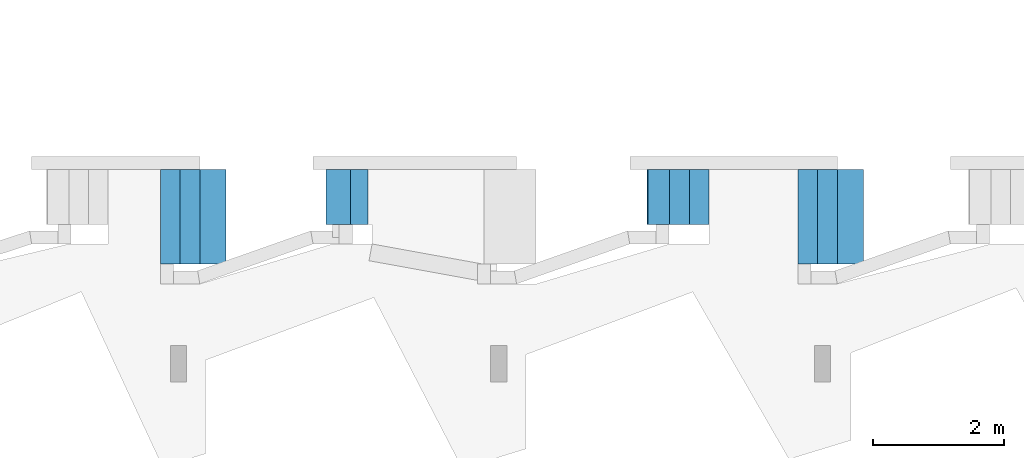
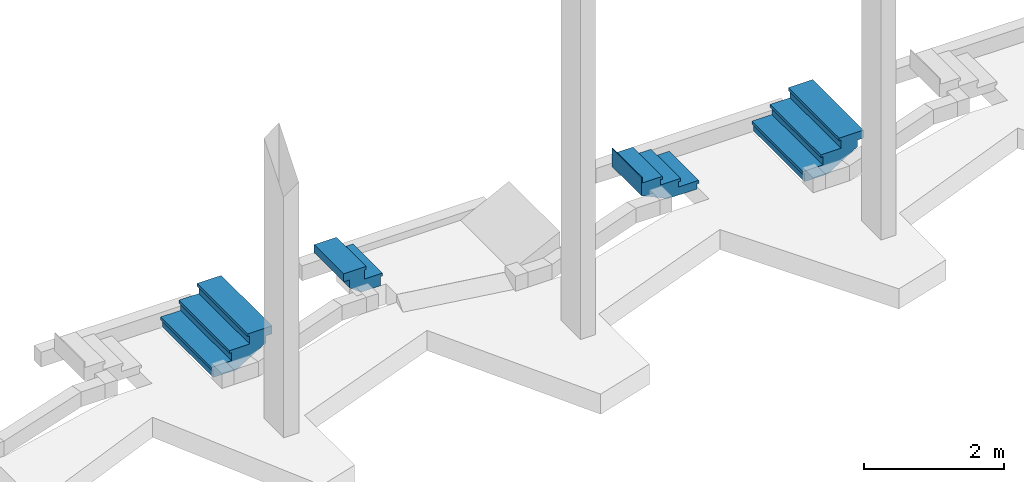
# One storey, part 5 of 8: 4 stair flights, 4 elements without a shape of their own.
"""IFC4 building model written with IfcOpenShell, lengths in metres."""

from ifc_helpers import new_model, entity, si_unit, converted_unit, derived_unit, direction, frame, origin, place, context, subcontext, project, spatial, polygons, material, constituent, constituent_set, type_object, element, aggregate, save


model = new_model("IFC4")

# Units and contexts
model_context = context("Model", 3, precision=1e-05, world=origin(), true_north=direction((6.123031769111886e-17, 1.0)))
body_context = subcontext(model_context, "Body", "Model", "MODEL_VIEW")
ifc_project = project(units=[si_unit("LENGTHUNIT", "METRE"), si_unit("AREAUNIT", "SQUARE_METRE"), si_unit("VOLUMEUNIT", "CUBIC_METRE"), converted_unit("PLANEANGLEUNIT", "DEGREE", entity("IfcRatioMeasure", 0.017453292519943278), si_unit("PLANEANGLEUNIT", "RADIAN"), dimensions=[0, 0, 0, 0, 0, 0, 0]), si_unit("MASSUNIT", "GRAM", prefix="KILO"), derived_unit("MASSDENSITYUNIT", [(si_unit("MASSUNIT", "GRAM", prefix="KILO"), 1), (si_unit("LENGTHUNIT", "METRE"), -3)]), derived_unit("MOMENTOFINERTIAUNIT", [(si_unit("LENGTHUNIT", "METRE"), 4)]), si_unit("TIMEUNIT", "SECOND"), si_unit("FREQUENCYUNIT", "HERTZ"), si_unit("THERMODYNAMICTEMPERATUREUNIT", "DEGREE_CELSIUS"), derived_unit("THERMALTRANSMITTANCEUNIT", [(si_unit("MASSUNIT", "GRAM", prefix="KILO"), 1), (si_unit("THERMODYNAMICTEMPERATUREUNIT", "KELVIN"), -1), (si_unit("TIMEUNIT", "SECOND"), -3)]), derived_unit("VOLUMETRICFLOWRATEUNIT", [(si_unit("LENGTHUNIT", "METRE"), 3), (si_unit("TIMEUNIT", "SECOND"), -1)]), derived_unit("MASSFLOWRATEUNIT", [(si_unit("MASSUNIT", "GRAM", prefix="KILO"), 1), (si_unit("TIMEUNIT", "SECOND"), -1)]), derived_unit("ROTATIONALFREQUENCYUNIT", [(si_unit("TIMEUNIT", "SECOND"), -1)]), si_unit("ELECTRICCURRENTUNIT", "AMPERE"), si_unit("ELECTRICVOLTAGEUNIT", "VOLT"), si_unit("POWERUNIT", "WATT"), si_unit("FORCEUNIT", "NEWTON", prefix="KILO"), si_unit("ILLUMINANCEUNIT", "LUX"), si_unit("LUMINOUSFLUXUNIT", "LUMEN"), si_unit("LUMINOUSINTENSITYUNIT", "CANDELA"), derived_unit("USERDEFINED", [(si_unit("MASSUNIT", "GRAM", prefix="KILO"), -1), (si_unit("LENGTHUNIT", "METRE"), -2), (si_unit("TIMEUNIT", "SECOND"), 3), (si_unit("LUMINOUSFLUXUNIT", "LUMEN"), 1)]), derived_unit("SOUNDPOWERUNIT", [(si_unit("MASSUNIT", "GRAM", prefix="KILO"), 1), (si_unit("LENGTHUNIT", "METRE"), 2), (si_unit("TIMEUNIT", "SECOND"), -3)]), derived_unit("SOUNDPRESSUREUNIT", [(si_unit("MASSUNIT", "GRAM", prefix="KILO"), 1), (si_unit("LENGTHUNIT", "METRE"), -1), (si_unit("TIMEUNIT", "SECOND"), -2)]), derived_unit("LINEARVELOCITYUNIT", [(si_unit("LENGTHUNIT", "METRE"), 1), (si_unit("TIMEUNIT", "SECOND"), -1)]), si_unit("PRESSUREUNIT", "PASCAL"), derived_unit("USERDEFINED", [(si_unit("LENGTHUNIT", "METRE"), -2), (si_unit("MASSUNIT", "GRAM", prefix="KILO"), 1), (si_unit("TIMEUNIT", "SECOND"), -2)]), derived_unit("LINEARFORCEUNIT", [(si_unit("MASSUNIT", "GRAM", prefix="KILO"), 1), (si_unit("LENGTHUNIT", "METRE"), 1), (si_unit("TIMEUNIT", "SECOND"), -2), (si_unit("LENGTHUNIT", "METRE"), -1)]), derived_unit("PLANARFORCEUNIT", [(si_unit("MASSUNIT", "GRAM", prefix="KILO"), 1), (si_unit("LENGTHUNIT", "METRE"), 1), (si_unit("TIMEUNIT", "SECOND"), -2), (si_unit("LENGTHUNIT", "METRE"), -2)])], contexts=[model_context])

# Site, building, storey
site_placement = place(None, origin())
site = spatial("IfcSite", under=ifc_project, at=site_placement, Name="Superficie", CompositionType="ELEMENT")
building_placement = place(site_placement, origin())
building = spatial("IfcBuilding", under=site, at=building_placement, CompositionType="ELEMENT")
storey_placement = place(building_placement, frame((0.0, 0.0, -0.5599999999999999)))
storey = spatial("IfcBuildingStorey", under=building, at=storey_placement, Name="Nivel -1", CompositionType="ELEMENT", Elevation=-0.5599999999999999)

# Stair, stair flight
stair_type_1 = type_object("IfcStairType", Name="Escalera prefabricada:Escalera prefabricada", PredefinedType="STRAIGHT_RUN_STAIR")
stair_1_placement = place(storey_placement, origin())
stair_1 = element("IfcStair", 1, at=stair_1_placement, inside=storey, type_object=stair_type_1, Name="Escalera prefabricada:Escalera", ObjectType="Escalera prefabricada:Escalera prefabricada", PredefinedType="STRAIGHT_RUN_STAIR")
ifc_material_1 = material(Name="Cerámica blanca", Category="Cerámica")
ifc_constituent_1 = constituent(ifc_material_1, Name="Cerámica blanca", Category="Cerámica")
ifc_material_2 = material(Name="Hormigón", Category="Hormigón")
ifc_constituent_2 = constituent(ifc_material_2, Name="Hormigón", Category="Hormigón")
ifc_constituent_set_1 = constituent_set(constituents=[ifc_constituent_1, ifc_constituent_2], Name="MaterialConstituentSet")
stair_flight_type_1 = type_object("IfcStairFlightType", Name="Tramo monolítico:Huella 40 mm Mamperlán 30 mm Contrahuella 15 mm", PredefinedType="STRAIGHT")
stair_flight_1_placement = place(stair_1_placement, frame((-11.4182009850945, -7.284170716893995, 0.0)))
stair_flight_1 = element("IfcStairFlight", 2, at=stair_flight_1_placement, type_object=stair_flight_type_1, material=ifc_constituent_set_1, Name="Escalera prefabricada:Escalera:175604 Run 1", ObjectType="Tramo monolítico:Huella 40 mm Mamperlán 30 mm Contrahuella 15 mm", PredefinedType="STRAIGHT", context=body_context, shape_type="Tessellation", body=[
    polygons([(0.9450000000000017, 0.8400000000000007, 0.08999999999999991), (0.9450000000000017, 0.8400000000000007, 0.13999999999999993), (0.9450000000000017, 1.0828671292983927e-15, 0.13999999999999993), (0.9450000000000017, 1.0828671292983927e-15, 0.08999999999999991), (0.9220000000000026, 0.8400000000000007, 0.08999999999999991), (0.9220000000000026, 1.0828671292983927e-15, 0.08999999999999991), (0.9220000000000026, 0.8400000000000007, 0.1), (0.9220000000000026, 1.0828671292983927e-15, 0.1), (0.6000000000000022, 0.8400000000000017, 0.13999999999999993), (0.5999999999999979, 2.1657342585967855e-15, 0.13999999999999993), (0.5999999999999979, 2.1657342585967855e-15, 0.1), (0.6000000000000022, 0.8400000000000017, 0.1)], [[[1, 2, 3, 4]], [[5, 1, 4, 6]], [[7, 5, 6, 8]], [[3, 2, 9, 10]], [[11, 12, 7, 8]], [[3, 10, 11, 8, 6, 4]], [[9, 2, 1, 5, 7, 12]], [[10, 9, 12, 11]]], closed=True),
    polygons([(0.915000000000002, 0.8400000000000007, 0.1), (0.915000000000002, 0.8400000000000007, 0.0), (0.9000000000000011, 0.8400000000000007, 0.0), (0.9000000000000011, 0.8400000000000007, 0.1), (0.915000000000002, 1.0828671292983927e-15, 0.1), (0.9000000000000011, 1.0828671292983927e-15, 0.1), (0.9000000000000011, 1.0828671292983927e-15, 0.0), (0.915000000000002, 1.0828671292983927e-15, 0.0)], [[[1, 2, 3, 4]], [[5, 6, 7, 8]], [[2, 1, 5, 8]], [[3, 2, 8, 7]], [[4, 3, 7, 6]], [[1, 4, 6, 5]]], closed=True),
    polygons([(0.6150000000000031, 0.8400000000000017, 0.24), (0.6150000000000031, 0.8400000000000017, 0.13999999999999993), (0.6000000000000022, 0.8400000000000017, 0.13999999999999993), (0.6000000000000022, 0.8400000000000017, 0.24), (0.615000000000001, 2.1657342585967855e-15, 0.24), (0.6000000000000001, 2.1657342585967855e-15, 0.24), (0.6000000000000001, 2.1657342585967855e-15, 0.13999999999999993), (0.615000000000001, 2.1657342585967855e-15, 0.13999999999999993)], [[[1, 2, 3, 4]], [[5, 6, 7, 8]], [[2, 1, 5, 8]], [[3, 2, 8, 7]], [[4, 3, 7, 6]], [[1, 4, 6, 5]]], closed=True),
    polygons([(0.6450000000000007, 2.1657342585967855e-15, 0.27999999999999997), (0.6450000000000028, 0.8400000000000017, 0.27999999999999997), (0.30000000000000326, 0.8400000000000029, 0.28), (0.29999999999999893, 3.2486013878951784e-15, 0.28), (0.29999999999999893, 3.2486013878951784e-15, 0.24), (0.30000000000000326, 0.8400000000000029, 0.24), (0.6220000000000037, 0.8400000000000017, 0.24), (0.6220000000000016, 2.1657342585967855e-15, 0.24), (0.6220000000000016, 2.1657342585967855e-15, 0.22999999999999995), (0.6450000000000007, 2.1657342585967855e-15, 0.22999999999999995), (0.6450000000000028, 0.8400000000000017, 0.22999999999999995), (0.6220000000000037, 0.8400000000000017, 0.22999999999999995)], [[[1, 2, 3, 4]], [[5, 6, 7, 8]], [[1, 4, 5, 8, 9, 10]], [[3, 2, 11, 12, 7, 6]], [[4, 3, 6, 5]], [[11, 2, 1, 10]], [[12, 11, 10, 9]], [[7, 12, 9, 8]]], closed=True),
    polygons([(0.3150000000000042, 0.8400000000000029, 0.37999999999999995), (0.3150000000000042, 0.8400000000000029, 0.27999999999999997), (0.30000000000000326, 0.8400000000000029, 0.27999999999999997), (0.30000000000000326, 0.8400000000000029, 0.37999999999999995), (0.315000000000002, 3.2486013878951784e-15, 0.37999999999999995), (0.3000000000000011, 3.2486013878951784e-15, 0.37999999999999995), (0.3000000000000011, 3.2486013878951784e-15, 0.27999999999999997), (0.315000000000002, 3.2486013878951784e-15, 0.27999999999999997)], [[[1, 2, 3, 4]], [[5, 6, 7, 8]], [[2, 1, 5, 8]], [[3, 2, 8, 7]], [[4, 3, 7, 6]], [[1, 4, 6, 5]]], closed=True),
    polygons([(0.015000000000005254, 0.840000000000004, 0.5199999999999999), (0.015000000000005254, 0.840000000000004, 0.41999999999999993), (4.331468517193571e-15, 0.840000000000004, 0.41999999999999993), (4.331468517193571e-15, 0.840000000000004, 0.5199999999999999), (0.015000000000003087, 3.2486013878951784e-15, 0.5199999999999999), (2.1657342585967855e-15, 3.2486013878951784e-15, 0.5199999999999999), (2.1657342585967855e-15, 3.2486013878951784e-15, 0.41999999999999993), (0.015000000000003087, 3.2486013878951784e-15, 0.41999999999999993)], [[[1, 2, 3, 4]], [[5, 6, 7, 8]], [[2, 1, 5, 8]], [[3, 2, 8, 7]], [[4, 3, 7, 6]], [[1, 4, 6, 5]]], closed=True),
    polygons([(0.3450000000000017, 3.2486013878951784e-15, 0.41999999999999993), (0.34500000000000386, 0.8400000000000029, 0.41999999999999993), (4.331468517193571e-15, 0.840000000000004, 0.42000000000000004), (0.0, 3.2486013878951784e-15, 0.42000000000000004), (0.0, 3.2486013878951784e-15, 0.37999999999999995), (4.331468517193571e-15, 0.840000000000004, 0.37999999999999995), (0.3220000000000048, 0.8400000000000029, 0.37999999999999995), (0.3220000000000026, 3.2486013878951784e-15, 0.37999999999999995), (0.3220000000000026, 3.2486013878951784e-15, 0.36999999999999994), (0.3450000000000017, 3.2486013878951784e-15, 0.36999999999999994), (0.34500000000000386, 0.8400000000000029, 0.36999999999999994), (0.3220000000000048, 0.8400000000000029, 0.36999999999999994)], [[[1, 2, 3, 4]], [[5, 6, 7, 8]], [[1, 4, 5, 8, 9, 10]], [[3, 2, 11, 12, 7, 6]], [[4, 3, 6, 5]], [[11, 2, 1, 10]], [[12, 11, 10, 9]], [[7, 12, 9, 8]]], closed=True),
    polygons([(0.6000000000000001, 2.1657342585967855e-15, 0.1), (0.9000000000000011, 1.0828671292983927e-15, 0.1), (0.9000000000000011, 0.8400000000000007, 0.1), (0.6000000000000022, 0.8400000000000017, 0.1), (0.5999999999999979, 2.1657342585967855e-15, 0.0), (0.9000000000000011, 1.0828671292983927e-15, 0.0), (0.9000000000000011, 0.8400000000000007, 0.0), (0.6000000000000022, 0.8400000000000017, 0.0), (0.3000000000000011, 3.2486013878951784e-15, 0.24), (0.6000000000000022, 2.1657342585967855e-15, 0.24), (0.6000000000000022, 0.8400000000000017, 0.24), (0.30000000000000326, 0.8400000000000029, 0.24), (0.29999999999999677, 3.2486013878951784e-15, 0.06343524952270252), (0.4359326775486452, 2.1657342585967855e-15, 2.0303758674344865e-16), (0.4359326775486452, 0.8400000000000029, 2.0303758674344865e-16), (0.30000000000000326, 0.8400000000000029, 0.0634352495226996), (0.0, 3.2486013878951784e-15, 0.2034352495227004), (4.331468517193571e-15, 0.840000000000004, 0.20343524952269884), (0.0, 3.2486013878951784e-15, 0.37999999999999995), (0.30000000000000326, 3.2486013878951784e-15, 0.37999999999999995), (0.30000000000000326, 0.8400000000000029, 0.37999999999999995), (4.331468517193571e-15, 0.840000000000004, 0.37999999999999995)], [[[1, 2, 3, 4]], [[2, 1, 5, 6]], [[3, 2, 6, 7]], [[4, 3, 7, 8]], [[9, 10, 11, 12]], [[5, 1, 10, 9, 13, 14]], [[1, 4, 11, 10]], [[4, 8, 15, 16, 12, 11]], [[6, 5, 14, 15, 8, 7]], [[15, 14, 13, 17, 18, 16]], [[19, 20, 21, 22]], [[20, 19, 17, 13, 9]], [[9, 12, 21, 20]], [[22, 21, 12, 16, 18]], [[19, 22, 18, 17]]], closed=True),
])
aggregate(stair_1, [stair_flight_1])

stair_type_2 = type_object("IfcStairType", Name="Escalera prefabricada:Escalera prefabricada", PredefinedType="STRAIGHT_RUN_STAIR")
stair_2_placement = place(storey_placement, origin())
stair_2 = element("IfcStair", 3, at=stair_2_placement, inside=storey, type_object=stair_type_2, Name="Escalera prefabricada:Escalera", ObjectType="Escalera prefabricada:Escalera prefabricada", PredefinedType="STRAIGHT_RUN_STAIR")
ifc_constituent_3 = constituent(ifc_material_1, Name="Cerámica blanca", Category="Cerámica")
ifc_constituent_4 = constituent(ifc_material_2, Name="Hormigón", Category="Hormigón")
ifc_constituent_set_2 = constituent_set(constituents=[ifc_constituent_3, ifc_constituent_4], Name="MaterialConstituentSet")
stair_flight_type_2 = type_object("IfcStairFlightType", Name="Tramo monolítico:Huella 40 mm Mamperlán 30 mm Contrahuella 15 mm", PredefinedType="STRAIGHT")
stair_flight_2_placement = place(stair_2_placement, frame((-18.853200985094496, -7.894170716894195, 0.0)))
stair_flight_2 = element("IfcStairFlight", 4, at=stair_flight_2_placement, type_object=stair_flight_type_2, material=ifc_constituent_set_2, Name="Escalera prefabricada:Escalera:175826 Run 1", ObjectType="Tramo monolítico:Huella 40 mm Mamperlán 30 mm Contrahuella 15 mm", PredefinedType="STRAIGHT", context=body_context, shape_type="Tessellation", body=[
    polygons([(0.0, 3.2486013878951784e-15, 0.13666666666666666), (0.0, 3.2486013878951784e-15, 0.1866666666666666), (0.0, 1.450000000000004, 0.1866666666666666), (0.0, 1.450000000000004, 0.13666666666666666), (0.02300000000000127, 3.2486013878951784e-15, 0.13666666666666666), (0.02300000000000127, 1.450000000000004, 0.13666666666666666), (0.02300000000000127, 3.2486013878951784e-15, 0.1466666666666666), (0.02300000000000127, 1.450000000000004, 0.1466666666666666), (0.34499999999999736, 3.2486013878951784e-15, 0.1866666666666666), (0.3450000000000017, 1.4500000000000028, 0.1866666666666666), (0.3450000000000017, 1.4500000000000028, 0.1466666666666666), (0.34499999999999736, 3.2486013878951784e-15, 0.1466666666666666)], [[[1, 2, 3, 4]], [[5, 1, 4, 6]], [[7, 5, 6, 8]], [[3, 2, 9, 10]], [[11, 12, 7, 8]], [[3, 10, 11, 8, 6, 4]], [[9, 2, 1, 5, 7, 12]], [[10, 9, 12, 11]]], closed=True),
    polygons([(0.029999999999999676, 3.2486013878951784e-15, 0.1466666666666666), (0.029999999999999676, 3.2486013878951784e-15, 0.0), (0.0450000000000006, 3.2486013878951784e-15, 0.0), (0.0450000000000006, 3.2486013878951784e-15, 0.1466666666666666), (0.029999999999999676, 1.450000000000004, 0.1466666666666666), (0.0450000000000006, 1.450000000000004, 0.1466666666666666), (0.0450000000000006, 1.450000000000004, 0.0), (0.029999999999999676, 1.450000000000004, 0.0)], [[[1, 2, 3, 4]], [[5, 6, 7, 8]], [[2, 1, 5, 8]], [[3, 2, 8, 7]], [[4, 3, 7, 6]], [[1, 4, 6, 5]]], closed=True),
    polygons([(0.32999999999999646, 3.2486013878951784e-15, 0.3333333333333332), (0.32999999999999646, 3.2486013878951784e-15, 0.1866666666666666), (0.34499999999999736, 3.2486013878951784e-15, 0.1866666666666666), (0.34499999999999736, 3.2486013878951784e-15, 0.3333333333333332), (0.3300000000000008, 1.4500000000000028, 0.3333333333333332), (0.3450000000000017, 1.4500000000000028, 0.3333333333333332), (0.3450000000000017, 1.4500000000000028, 0.1866666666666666), (0.3300000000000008, 1.4500000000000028, 0.1866666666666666)], [[[1, 2, 3, 4]], [[5, 6, 7, 8]], [[2, 1, 5, 8]], [[3, 2, 8, 7]], [[4, 3, 7, 6]], [[1, 4, 6, 5]]], closed=True),
    polygons([(0.3000000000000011, 1.4500000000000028, 0.3733333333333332), (0.2999999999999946, 3.2486013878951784e-15, 0.3733333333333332), (0.6449999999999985, 2.1657342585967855e-15, 0.3733333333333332), (0.6450000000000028, 1.4500000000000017, 0.3733333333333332), (0.6450000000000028, 1.4500000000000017, 0.3333333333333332), (0.6449999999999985, 2.1657342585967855e-15, 0.3333333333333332), (0.3229999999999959, 3.2486013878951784e-15, 0.3333333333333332), (0.3230000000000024, 1.4500000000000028, 0.3333333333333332), (0.3230000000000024, 1.4500000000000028, 0.3233333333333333), (0.3000000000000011, 1.4500000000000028, 0.3233333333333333), (0.2999999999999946, 3.2486013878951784e-15, 0.3233333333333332), (0.3229999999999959, 3.2486013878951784e-15, 0.3233333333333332)], [[[1, 2, 3, 4]], [[5, 6, 7, 8]], [[1, 4, 5, 8, 9, 10]], [[3, 2, 11, 12, 7, 6]], [[4, 3, 6, 5]], [[11, 2, 1, 10]], [[12, 11, 10, 9]], [[7, 12, 9, 8]]], closed=True),
    polygons([(0.6299999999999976, 2.1657342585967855e-15, 0.5199999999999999), (0.6299999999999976, 2.1657342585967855e-15, 0.37333333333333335), (0.6449999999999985, 2.1657342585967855e-15, 0.37333333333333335), (0.6449999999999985, 2.1657342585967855e-15, 0.5199999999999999), (0.6300000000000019, 1.4500000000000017, 0.5199999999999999), (0.6450000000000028, 1.4500000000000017, 0.5199999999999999), (0.6450000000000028, 1.4500000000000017, 0.37333333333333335), (0.6300000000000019, 1.4500000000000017, 0.37333333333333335)], [[[1, 2, 3, 4]], [[5, 6, 7, 8]], [[2, 1, 5, 8]], [[3, 2, 8, 7]], [[4, 3, 7, 6]], [[1, 4, 6, 5]]], closed=True),
    polygons([(0.6000000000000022, 1.4500000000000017, 0.5599999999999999), (0.5999999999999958, 2.1657342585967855e-15, 0.5599999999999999), (0.9999999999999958, 1.0828671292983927e-15, 0.5599999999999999), (1.0, 1.4500000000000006, 0.5599999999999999), (1.0, 1.4500000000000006, 0.5199999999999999), (0.9999999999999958, 1.0828671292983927e-15, 0.5199999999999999), (0.622999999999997, 2.1657342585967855e-15, 0.5199999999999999), (0.6230000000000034, 1.4500000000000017, 0.5199999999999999), (0.6230000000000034, 1.4500000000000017, 0.5099999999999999), (0.6000000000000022, 1.4500000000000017, 0.5099999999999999), (0.5999999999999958, 2.1657342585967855e-15, 0.5099999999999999), (0.622999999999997, 2.1657342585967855e-15, 0.5099999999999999)], [[[1, 2, 3, 4]], [[5, 6, 7, 8]], [[1, 4, 5, 8, 9, 10]], [[3, 2, 11, 12, 7, 6]], [[4, 3, 6, 5]], [[11, 2, 1, 10]], [[12, 11, 10, 9]], [[7, 12, 9, 8]]], closed=True),
    polygons([(0.3450000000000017, 1.4500000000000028, 0.1466666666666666), (0.0450000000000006, 1.450000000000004, 0.1466666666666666), (0.0450000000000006, 3.2486013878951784e-15, 0.1466666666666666), (0.34499999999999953, 3.2486013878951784e-15, 0.1466666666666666), (0.3450000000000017, 1.4500000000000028, 0.0), (0.0450000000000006, 1.450000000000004, 0.0), (0.0450000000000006, 3.2486013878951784e-15, 0.0), (0.34499999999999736, 3.2486013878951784e-15, 0.0), (0.41214285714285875, 1.4500000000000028, 1.2859047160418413e-15), (0.4121428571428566, 3.2486013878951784e-15, 5.414335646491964e-16), (0.6450000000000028, 1.4500000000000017, 0.1448888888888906), (0.9000000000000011, 1.4500000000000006, 0.303555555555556), (0.8999999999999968, 1.0828671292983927e-15, 0.3035555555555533), (0.6450000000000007, 2.1657342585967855e-15, 0.1448888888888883), (0.9999999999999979, 1.0828671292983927e-15, 0.41999999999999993), (0.8999999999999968, 1.0828671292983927e-15, 0.41999999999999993), (0.9000000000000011, 1.4500000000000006, 0.41999999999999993), (1.0000000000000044, 1.4500000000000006, 0.41999999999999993), (1.0000000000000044, 1.4500000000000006, 0.5199999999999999), (0.9999999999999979, 1.0828671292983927e-15, 0.5199999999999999), (0.6450000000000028, 1.4500000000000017, 0.3333333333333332), (0.3450000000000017, 1.4500000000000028, 0.3333333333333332), (0.3450000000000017, 3.2486013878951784e-15, 0.3333333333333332), (0.6449999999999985, 2.1657342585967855e-15, 0.3333333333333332), (0.6450000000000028, 1.4500000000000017, 0.5199999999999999), (0.6449999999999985, 2.1657342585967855e-15, 0.5199999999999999)], [[[1, 2, 3, 4]], [[2, 1, 5, 6]], [[3, 2, 6, 7]], [[4, 3, 7, 8]], [[6, 5, 9, 10, 8, 7]], [[10, 9, 11, 12, 13, 14]], [[15, 16, 17, 18]], [[15, 18, 19, 20]], [[21, 22, 23, 24]], [[5, 1, 22, 21, 11, 9]], [[1, 4, 23, 22]], [[4, 8, 10, 14, 24, 23]], [[25, 26, 20, 19]], [[25, 19, 18, 17, 12, 11, 21]], [[21, 24, 26, 25]], [[20, 26, 24, 14, 13, 16, 15]], [[13, 12, 17, 16]]], closed=True),
])
aggregate(stair_2, [stair_flight_2])

stair_type_3 = type_object("IfcStairType", Name="Escalera prefabricada:Escalera prefabricada", PredefinedType="STRAIGHT_RUN_STAIR")
stair_3_placement = place(storey_placement, origin())
stair_3 = element("IfcStair", 5, at=stair_3_placement, inside=storey, type_object=stair_type_3, Name="Escalera prefabricada:Escalera", ObjectType="Escalera prefabricada:Escalera prefabricada", PredefinedType="STRAIGHT_RUN_STAIR")
ifc_constituent_5 = constituent(ifc_material_1, Name="Cerámica blanca", Category="Cerámica")
ifc_constituent_6 = constituent(ifc_material_2, Name="Hormigón", Category="Hormigón")
ifc_constituent_set_3 = constituent_set(constituents=[ifc_constituent_5, ifc_constituent_6], Name="MaterialConstituentSet")
stair_flight_type_3 = type_object("IfcStairFlightType", Name="Tramo monolítico:Huella 40 mm Mamperlán 30 mm Contrahuella 15 mm", PredefinedType="STRAIGHT")
stair_flight_3_placement = place(stair_3_placement, frame((-9.113200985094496, -7.894170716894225, 0.0)))
stair_flight_3 = element("IfcStairFlight", 6, at=stair_flight_3_placement, type_object=stair_flight_type_3, material=ifc_constituent_set_3, Name="Escalera prefabricada:Escalera:176099 Run 1", ObjectType="Tramo monolítico:Huella 40 mm Mamperlán 30 mm Contrahuella 15 mm", PredefinedType="STRAIGHT", context=body_context, shape_type="Tessellation", body=[
    polygons([(0.0, 3.2486013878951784e-15, 0.13666666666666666), (0.0, 3.2486013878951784e-15, 0.1866666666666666), (0.0, 1.4500000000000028, 0.1866666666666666), (0.0, 1.4500000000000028, 0.13666666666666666), (0.02300000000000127, 3.2486013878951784e-15, 0.13666666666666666), (0.02300000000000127, 1.4500000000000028, 0.13666666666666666), (0.022999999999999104, 3.2486013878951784e-15, 0.1466666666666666), (0.02300000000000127, 1.4500000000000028, 0.1466666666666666), (0.34499999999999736, 2.1657342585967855e-15, 0.1866666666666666), (0.3450000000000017, 1.4500000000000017, 0.1866666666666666), (0.3450000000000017, 1.4500000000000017, 0.1466666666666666), (0.34499999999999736, 2.1657342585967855e-15, 0.1466666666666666)], [[[1, 2, 3, 4]], [[5, 1, 4, 6]], [[7, 5, 6, 8]], [[3, 2, 9, 10]], [[11, 12, 7, 8]], [[3, 10, 11, 8, 6, 4]], [[9, 2, 1, 5, 7, 12]], [[10, 9, 12, 11]]], closed=True),
    polygons([(0.029999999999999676, 3.2486013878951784e-15, 0.1466666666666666), (0.029999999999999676, 3.2486013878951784e-15, 0.0), (0.04499999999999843, 3.2486013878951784e-15, 0.0), (0.04499999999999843, 3.2486013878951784e-15, 0.1466666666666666), (0.029999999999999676, 1.4500000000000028, 0.1466666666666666), (0.04499999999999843, 1.4500000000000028, 0.1466666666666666), (0.04499999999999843, 1.4500000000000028, 0.0), (0.029999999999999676, 1.4500000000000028, 0.0)], [[[1, 2, 3, 4]], [[5, 6, 7, 8]], [[2, 1, 5, 8]], [[3, 2, 8, 7]], [[4, 3, 7, 6]], [[1, 4, 6, 5]]], closed=True),
    polygons([(0.3299999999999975, 2.1657342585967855e-15, 0.3333333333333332), (0.3299999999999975, 2.1657342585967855e-15, 0.1866666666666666), (0.34499999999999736, 2.1657342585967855e-15, 0.1866666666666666), (0.34499999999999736, 2.1657342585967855e-15, 0.3333333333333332), (0.33000000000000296, 1.4500000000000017, 0.3333333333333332), (0.3450000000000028, 1.4500000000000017, 0.3333333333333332), (0.3450000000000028, 1.4500000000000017, 0.1866666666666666), (0.33000000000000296, 1.4500000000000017, 0.1866666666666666)], [[[1, 2, 3, 4]], [[5, 6, 7, 8]], [[2, 1, 5, 8]], [[3, 2, 8, 7]], [[4, 3, 7, 6]], [[1, 4, 6, 5]]], closed=True),
    polygons([(0.3000000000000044, 1.4500000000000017, 0.3733333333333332), (0.29999999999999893, 2.1657342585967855e-15, 0.3733333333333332), (0.6449999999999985, 1.0828671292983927e-15, 0.3733333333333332), (0.6450000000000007, 1.4500000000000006, 0.3733333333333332), (0.6450000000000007, 1.4500000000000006, 0.3333333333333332), (0.6449999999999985, 1.0828671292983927e-15, 0.3333333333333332), (0.32299999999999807, 2.1657342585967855e-15, 0.3333333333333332), (0.32300000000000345, 1.4500000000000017, 0.3333333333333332), (0.32300000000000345, 1.4500000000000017, 0.3233333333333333), (0.3000000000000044, 1.4500000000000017, 0.3233333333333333), (0.29999999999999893, 2.1657342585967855e-15, 0.3233333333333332), (0.32299999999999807, 2.1657342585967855e-15, 0.3233333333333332)], [[[1, 2, 3, 4]], [[5, 6, 7, 8]], [[1, 4, 5, 8, 9, 10]], [[3, 2, 11, 12, 7, 6]], [[4, 3, 6, 5]], [[11, 2, 1, 10]], [[12, 11, 10, 9]], [[7, 12, 9, 8]]], closed=True),
    polygons([(0.6299999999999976, 1.0828671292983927e-15, 0.5199999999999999), (0.6299999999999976, 1.0828671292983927e-15, 0.37333333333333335), (0.6449999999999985, 1.0828671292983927e-15, 0.37333333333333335), (0.6449999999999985, 1.0828671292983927e-15, 0.5199999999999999), (0.630000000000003, 1.4500000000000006, 0.5199999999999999), (0.6450000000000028, 1.4500000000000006, 0.5199999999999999), (0.6450000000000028, 1.4500000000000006, 0.37333333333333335), (0.630000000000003, 1.4500000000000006, 0.37333333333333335)], [[[1, 2, 3, 4]], [[5, 6, 7, 8]], [[2, 1, 5, 8]], [[3, 2, 8, 7]], [[4, 3, 7, 6]], [[1, 4, 6, 5]]], closed=True),
    polygons([(0.6000000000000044, 1.4500000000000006, 0.5599999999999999), (0.5999999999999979, 1.0828671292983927e-15, 0.5599999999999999), (0.9999999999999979, -1.0828671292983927e-15, 0.5599999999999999), (1.0000000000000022, 1.4499999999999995, 0.5599999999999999), (1.0000000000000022, 1.4499999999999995, 0.5199999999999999), (0.9999999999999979, -1.0828671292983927e-15, 0.5199999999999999), (0.622999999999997, 1.0828671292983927e-15, 0.5199999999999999), (0.6230000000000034, 1.4500000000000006, 0.5199999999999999), (0.6230000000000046, 1.4500000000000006, 0.5099999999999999), (0.6000000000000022, 1.4500000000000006, 0.5099999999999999), (0.5999999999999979, 1.0828671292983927e-15, 0.5099999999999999), (0.622999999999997, 1.0828671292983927e-15, 0.5099999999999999)], [[[1, 2, 3, 4]], [[5, 6, 7, 8]], [[1, 4, 5, 8, 9, 10]], [[3, 2, 11, 12, 7, 6]], [[4, 3, 6, 5]], [[11, 2, 1, 10]], [[12, 11, 10, 9]], [[7, 12, 9, 8]]], closed=True),
    polygons([(0.34500000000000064, 1.4500000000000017, 0.1466666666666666), (0.04499999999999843, 1.4500000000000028, 0.1466666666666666), (0.04499999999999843, 3.2486013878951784e-15, 0.1466666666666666), (0.3449999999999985, 2.1657342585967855e-15, 0.1466666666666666), (0.3450000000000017, 1.4500000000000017, 0.0), (0.04499999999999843, 1.4500000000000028, 0.0), (0.04499999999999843, 3.2486013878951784e-15, 0.0), (0.34499999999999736, 2.1657342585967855e-15, 0.0), (0.41214285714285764, 1.4500000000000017, -2.0303758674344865e-16), (0.41214285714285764, 2.1657342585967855e-15, -2.0303758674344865e-16), (0.6450000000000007, 1.4500000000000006, 0.14488888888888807), (0.9000000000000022, 1.4499999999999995, 0.30355555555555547), (0.8999999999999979, -1.0828671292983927e-15, 0.3035555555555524), (0.6449999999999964, 1.0828671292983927e-15, 0.1448888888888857), (0.9999999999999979, -1.0828671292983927e-15, 0.41999999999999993), (0.8999999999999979, -1.0828671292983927e-15, 0.41999999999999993), (0.9000000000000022, 1.4499999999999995, 0.41999999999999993), (1.0000000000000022, 1.4499999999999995, 0.41999999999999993), (1.0000000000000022, 1.4499999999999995, 0.5199999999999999), (0.9999999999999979, -1.0828671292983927e-15, 0.5199999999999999), (0.6450000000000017, 1.4500000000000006, 0.3333333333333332), (0.34499999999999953, 1.4500000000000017, 0.3333333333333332), (0.34499999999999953, 2.1657342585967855e-15, 0.3333333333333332), (0.6449999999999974, 1.0828671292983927e-15, 0.3333333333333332), (0.6450000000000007, 1.4500000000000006, 0.5199999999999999), (0.6449999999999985, 1.0828671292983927e-15, 0.5199999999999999)], [[[1, 2, 3, 4]], [[2, 1, 5, 6]], [[3, 2, 6, 7]], [[4, 3, 7, 8]], [[6, 5, 9, 10, 8, 7]], [[10, 9, 11, 12, 13, 14]], [[15, 16, 17, 18]], [[15, 18, 19, 20]], [[21, 22, 23, 24]], [[5, 1, 22, 21, 11, 9]], [[1, 4, 23, 22]], [[4, 8, 10, 14, 24, 23]], [[25, 26, 20, 19]], [[25, 19, 18, 17, 12, 11, 21]], [[21, 24, 26, 25]], [[20, 26, 24, 14, 13, 16, 15]], [[13, 12, 17, 16]]], closed=True),
])
aggregate(stair_3, [stair_flight_3])

stair_type_4 = type_object("IfcStairType", Name="Escalera prefabricada:Escalera prefabricada", PredefinedType="STRAIGHT_RUN_STAIR")
stair_4_placement = place(storey_placement, origin())
stair_4 = element("IfcStair", 7, at=stair_4_placement, inside=storey, type_object=stair_type_4, Name="Escalera prefabricada:Escalera", ObjectType="Escalera prefabricada:Escalera prefabricada", PredefinedType="STRAIGHT_RUN_STAIR")
ifc_constituent_7 = constituent(ifc_material_1, Name="Cerámica blanca", Category="Cerámica")
ifc_constituent_8 = constituent(ifc_material_2, Name="Hormigón", Category="Hormigón")
ifc_constituent_set_4 = constituent_set(constituents=[ifc_constituent_7, ifc_constituent_8], Name="MaterialConstituentSet")
stair_flight_type_4 = type_object("IfcStairFlightType", Name="Tramo monolítico:Huella 40 mm Mamperlán 30 mm Contrahuella 15 mm", PredefinedType="STRAIGHT")
stair_flight_4_placement = place(stair_4_placement, frame((-16.3229732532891, -7.284170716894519, 0.0)))
stair_flight_4 = element("IfcStairFlight", 8, at=stair_flight_4_placement, type_object=stair_flight_type_4, material=ifc_constituent_set_4, Name="Escalera prefabricada:Escalera:176263 Run 1", ObjectType="Tramo monolítico:Huella 40 mm Mamperlán 30 mm Contrahuella 15 mm", PredefinedType="STRAIGHT", context=body_context, shape_type="Tessellation", body=[
    polygons([(0.6400000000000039, 0.8399999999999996, 0.29999999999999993), (0.6400000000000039, 0.8399999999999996, 0.34999999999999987), (0.6400000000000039, -1.0828671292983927e-15, 0.34999999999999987), (0.6400000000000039, -1.0828671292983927e-15, 0.29999999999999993), (0.617000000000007, 0.8399999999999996, 0.29999999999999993), (0.617000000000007, -1.0828671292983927e-15, 0.29999999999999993), (0.617000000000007, 0.8399999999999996, 0.30999999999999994), (0.617000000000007, -1.0828671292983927e-15, 0.30999999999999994), (0.32500000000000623, 0.8400000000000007, 0.34999999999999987), (0.32500000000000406, 1.0828671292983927e-15, 0.34999999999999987), (0.32500000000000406, 1.0828671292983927e-15, 0.30999999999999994), (0.32500000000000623, 0.8400000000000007, 0.30999999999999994)], [[[1, 2, 3, 4]], [[5, 1, 4, 6]], [[7, 5, 6, 8]], [[3, 2, 9, 10]], [[11, 12, 7, 8]], [[3, 10, 11, 8, 6, 4]], [[9, 2, 1, 5, 7, 12]], [[10, 9, 12, 11]]], closed=True),
    polygons([(0.6100000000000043, 0.8399999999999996, 0.30999999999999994), (0.6100000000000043, 0.8399999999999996, 0.13999999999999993), (0.5950000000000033, 0.8399999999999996, 0.13999999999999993), (0.5950000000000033, 0.8399999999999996, 0.30999999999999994), (0.6100000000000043, -1.0828671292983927e-15, 0.30999999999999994), (0.5950000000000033, -1.0828671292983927e-15, 0.30999999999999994), (0.5950000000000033, -1.0828671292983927e-15, 0.13999999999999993), (0.6100000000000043, -1.0828671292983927e-15, 0.13999999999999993)], [[[1, 2, 3, 4]], [[5, 6, 7, 8]], [[2, 1, 5, 8]], [[3, 2, 8, 7]], [[4, 3, 7, 6]], [[1, 4, 6, 5]]], closed=True),
    polygons([(0.340000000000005, 0.8400000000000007, 0.5199999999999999), (0.340000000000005, 0.8400000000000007, 0.34999999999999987), (0.32500000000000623, 0.8400000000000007, 0.34999999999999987), (0.32500000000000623, 0.8400000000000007, 0.5199999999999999), (0.34000000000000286, 1.0828671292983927e-15, 0.5199999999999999), (0.32500000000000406, 1.0828671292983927e-15, 0.5199999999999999), (0.32500000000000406, 1.0828671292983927e-15, 0.34999999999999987), (0.34000000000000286, 1.0828671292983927e-15, 0.34999999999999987)], [[[1, 2, 3, 4]], [[5, 6, 7, 8]], [[2, 1, 5, 8]], [[3, 2, 8, 7]], [[4, 3, 7, 6]], [[1, 4, 6, 5]]], closed=True),
    polygons([(0.37000000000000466, 1.0828671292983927e-15, 0.5599999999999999), (0.3700000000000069, 0.8400000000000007, 0.5599999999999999), (4.331468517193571e-15, 0.8400000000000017, 0.5599999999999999), (0.0, 2.1657342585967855e-15, 0.5599999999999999), (0.0, 2.1657342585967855e-15, 0.5199999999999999), (4.331468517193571e-15, 0.8400000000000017, 0.5199999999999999), (0.3470000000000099, 0.8400000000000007, 0.5199999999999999), (0.3470000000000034, 1.0828671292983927e-15, 0.5199999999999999), (0.3470000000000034, 1.0828671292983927e-15, 0.5099999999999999), (0.37000000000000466, 1.0828671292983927e-15, 0.5099999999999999), (0.3700000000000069, 0.8400000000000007, 0.5099999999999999), (0.34700000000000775, 0.8400000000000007, 0.5099999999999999)], [[[1, 2, 3, 4]], [[5, 6, 7, 8]], [[1, 4, 5, 8, 9, 10]], [[3, 2, 11, 12, 7, 6]], [[4, 3, 6, 5]], [[11, 2, 1, 10]], [[12, 11, 10, 9]], [[7, 12, 9, 8]]], closed=True),
    polygons([(0.3250000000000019, 1.0828671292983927e-15, 0.30999999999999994), (0.5950000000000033, -1.0828671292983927e-15, 0.30999999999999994), (0.5950000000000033, 0.8399999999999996, 0.30999999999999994), (0.32500000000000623, 0.8400000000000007, 0.30999999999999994), (0.32500000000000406, 1.0828671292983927e-15, 0.13999999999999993), (0.5950000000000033, -1.0828671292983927e-15, 0.13999999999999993), (0.5950000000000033, 0.8399999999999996, 0.13999999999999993), (0.32500000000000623, 0.8400000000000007, 0.13999999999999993), (0.28295990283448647, 1.0828671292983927e-15, 0.13999999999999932), (0.28295990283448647, 0.8400000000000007, 0.13999999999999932), (0.10000000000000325, 2.1657342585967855e-15, 0.2823021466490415), (0.10000000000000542, 0.8400000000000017, 0.28230214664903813), (8.662937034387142e-15, 0.8400000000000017, 0.4199999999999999), (0.10000000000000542, 0.8400000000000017, 0.4199999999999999), (0.10000000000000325, 2.1657342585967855e-15, 0.4199999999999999), (2.1657342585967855e-15, 2.1657342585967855e-15, 0.4199999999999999), (2.1657342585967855e-15, 2.1657342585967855e-15, 0.5199999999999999), (8.662937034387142e-15, 0.8400000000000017, 0.5199999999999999), (0.32500000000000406, 1.0828671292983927e-15, 0.5199999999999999), (0.32500000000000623, 0.8400000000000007, 0.5199999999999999)], [[[1, 2, 3, 4]], [[2, 1, 5, 6]], [[3, 2, 6, 7]], [[4, 3, 7, 8]], [[6, 5, 9, 10, 8, 7]], [[10, 9, 11, 12]], [[13, 14, 15, 16]], [[13, 16, 17, 18]], [[19, 20, 18, 17]], [[5, 1, 19, 17, 16, 15, 11, 9]], [[1, 4, 20, 19]], [[4, 8, 10, 12, 14, 13, 18, 20]], [[12, 11, 15, 14]]], closed=True),
])
aggregate(stair_4, [stair_flight_4])

save(model, "model.ifc")
